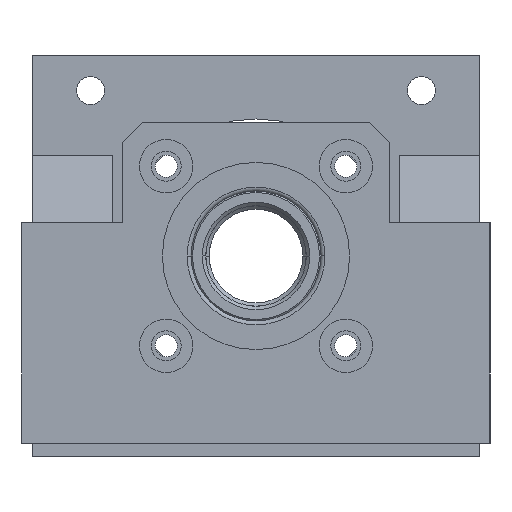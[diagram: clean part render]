
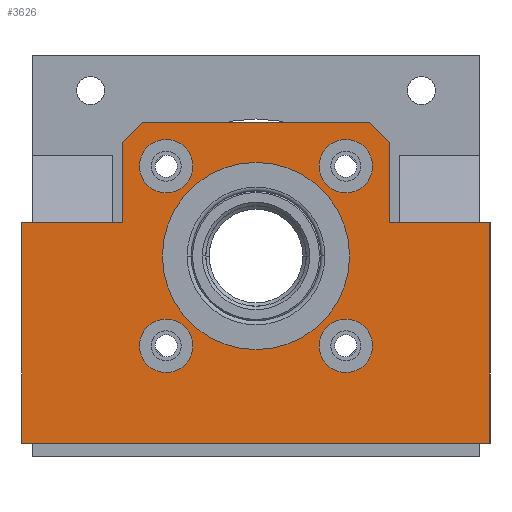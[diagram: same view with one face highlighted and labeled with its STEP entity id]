
A CAD part, left-side view. The second image highlights one B-rep face of the part: STEP entity #3626.
In plain terms, the highlighted planar face has unit normal (-1, 0, 0).
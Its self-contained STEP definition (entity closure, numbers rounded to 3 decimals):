
#1543=DIRECTION('',(0.,0.,-1.));
#1544=VECTOR('',#1543,12.);
#1545=CARTESIAN_POINT('',(0.,-20.,45.));
#1546=LINE('',#1545,#1544);
#1547=DIRECTION('',(0.,0.,-1.));
#1548=VECTOR('',#1547,33.);
#1549=CARTESIAN_POINT('',(0.,-35.,33.));
#1550=LINE('',#1549,#1548);
#1551=DIRECTION('',(0.,1.,0.));
#1552=VECTOR('',#1551,70.);
#1553=CARTESIAN_POINT('',(0.,-35.,0.));
#1554=LINE('',#1553,#1552);
#1555=DIRECTION('',(0.,-0.707,0.707));
#1556=VECTOR('',#1555,4.243);
#1557=CARTESIAN_POINT('',(0.,20.,45.));
#1558=LINE('',#1557,#1556);
#1559=DIRECTION('',(0.,-0.707,-0.707));
#1560=VECTOR('',#1559,4.243);
#1561=CARTESIAN_POINT('',(0.,-17.,48.));
#1562=LINE('',#1561,#1560);
#1563=CARTESIAN_POINT('',(0.,13.435,14.565));
#1564=DIRECTION('',(-1.,0.,0.));
#1565=DIRECTION('',(0.,-1.,0.));
#1566=AXIS2_PLACEMENT_3D('',#1563,#1564,#1565);
#1568=CARTESIAN_POINT('',(0.,13.435,14.565));
#1569=DIRECTION('',(-1.,0.,0.));
#1570=DIRECTION('',(0.,1.,0.));
#1571=AXIS2_PLACEMENT_3D('',#1568,#1569,#1570);
#1573=CARTESIAN_POINT('',(0.,-13.435,41.435));
#1574=DIRECTION('',(-1.,0.,0.));
#1575=DIRECTION('',(0.,-1.,0.));
#1576=AXIS2_PLACEMENT_3D('',#1573,#1574,#1575);
#1578=CARTESIAN_POINT('',(0.,-13.435,41.435));
#1579=DIRECTION('',(-1.,0.,0.));
#1580=DIRECTION('',(0.,1.,0.));
#1581=AXIS2_PLACEMENT_3D('',#1578,#1579,#1580);
#1583=CARTESIAN_POINT('',(0.,-13.435,14.565));
#1584=DIRECTION('',(-1.,0.,0.));
#1585=DIRECTION('',(0.,-1.,0.));
#1586=AXIS2_PLACEMENT_3D('',#1583,#1584,#1585);
#1588=CARTESIAN_POINT('',(0.,-13.435,14.565));
#1589=DIRECTION('',(-1.,0.,0.));
#1590=DIRECTION('',(0.,1.,0.));
#1591=AXIS2_PLACEMENT_3D('',#1588,#1589,#1590);
#1593=CARTESIAN_POINT('',(0.,0.,28.));
#1594=DIRECTION('',(-1.,0.,0.));
#1595=DIRECTION('',(0.,0.,1.));
#1596=AXIS2_PLACEMENT_3D('',#1593,#1594,#1595);
#1598=CARTESIAN_POINT('',(0.,13.435,41.435));
#1599=DIRECTION('',(-1.,0.,0.));
#1600=DIRECTION('',(0.,-1.,0.));
#1601=AXIS2_PLACEMENT_3D('',#1598,#1599,#1600);
#1603=CARTESIAN_POINT('',(0.,13.435,41.435));
#1604=DIRECTION('',(-1.,0.,0.));
#1605=DIRECTION('',(0.,1.,0.));
#1606=AXIS2_PLACEMENT_3D('',#1603,#1604,#1605);
#1624=DIRECTION('',(0.,1.,0.));
#1625=VECTOR('',#1624,15.);
#1626=CARTESIAN_POINT('',(0.,-35.,33.));
#1627=LINE('',#1626,#1625);
#1740=DIRECTION('',(0.,1.,0.));
#1741=VECTOR('',#1740,34.);
#1742=CARTESIAN_POINT('',(0.,-17.,48.));
#1743=LINE('',#1742,#1741);
#1756=DIRECTION('',(0.,0.,-1.));
#1757=VECTOR('',#1756,12.);
#1758=CARTESIAN_POINT('',(0.,20.,45.));
#1759=LINE('',#1758,#1757);
#1772=DIRECTION('',(0.,1.,0.));
#1773=VECTOR('',#1772,15.);
#1774=CARTESIAN_POINT('',(0.,20.,33.));
#1775=LINE('',#1774,#1773);
#1808=DIRECTION('',(0.,0.,-1.));
#1809=VECTOR('',#1808,33.);
#1810=CARTESIAN_POINT('',(0.,35.,33.));
#1811=LINE('',#1810,#1809);
#2041=CARTESIAN_POINT('',(0.,0.,28.));
#2042=DIRECTION('',(1.,0.,0.));
#2043=DIRECTION('',(0.,0.,1.));
#2044=AXIS2_PLACEMENT_3D('',#2041,#2042,#2043);
#2489=CARTESIAN_POINT('',(0.,35.,0.));
#2490=VERTEX_POINT('',#2489);
#2491=CARTESIAN_POINT('',(0.,-35.,0.));
#2492=VERTEX_POINT('',#2491);
#2643=CARTESIAN_POINT('',(0.,20.,33.));
#2644=VERTEX_POINT('',#2643);
#2645=CARTESIAN_POINT('',(0.,35.,33.));
#2646=VERTEX_POINT('',#2645);
#2719=CARTESIAN_POINT('',(0.,9.435,41.435));
#2720=VERTEX_POINT('',#2719);
#2721=CARTESIAN_POINT('',(0.,17.435,41.435));
#2722=VERTEX_POINT('',#2721);
#2723=CARTESIAN_POINT('',(0.,-20.,45.));
#2724=CARTESIAN_POINT('',(0.,-20.,33.));
#2725=VERTEX_POINT('',#2723);
#2726=VERTEX_POINT('',#2724);
#2727=CARTESIAN_POINT('',(0.,-35.,33.));
#2728=VERTEX_POINT('',#2727);
#2729=CARTESIAN_POINT('',(0.,20.,45.));
#2730=VERTEX_POINT('',#2729);
#2731=CARTESIAN_POINT('',(0.,17.,48.));
#2732=VERTEX_POINT('',#2731);
#2733=CARTESIAN_POINT('',(0.,-17.,48.));
#2734=VERTEX_POINT('',#2733);
#2735=CARTESIAN_POINT('',(0.,9.435,14.565));
#2736=CARTESIAN_POINT('',(0.,17.435,14.565));
#2737=VERTEX_POINT('',#2735);
#2738=VERTEX_POINT('',#2736);
#2739=CARTESIAN_POINT('',(0.,-17.435,41.435));
#2740=CARTESIAN_POINT('',(0.,-9.435,41.435));
#2741=VERTEX_POINT('',#2739);
#2742=VERTEX_POINT('',#2740);
#2743=CARTESIAN_POINT('',(0.,-17.435,14.565));
#2744=CARTESIAN_POINT('',(0.,-9.435,14.565));
#2745=VERTEX_POINT('',#2743);
#2746=VERTEX_POINT('',#2744);
#2747=CARTESIAN_POINT('',(0.,0.,42.));
#2748=CARTESIAN_POINT('',(0.,0.,14.));
#2749=VERTEX_POINT('',#2747);
#2750=VERTEX_POINT('',#2748);
#3571=CARTESIAN_POINT('',(0.,-35.,33.));
#3572=DIRECTION('',(-1.,0.,0.));
#3573=DIRECTION('',(0.,-1.,0.));
#3574=AXIS2_PLACEMENT_3D('',#3571,#3572,#3573);
#3575=PLANE('',#3574);
#3577=ORIENTED_EDGE('',*,*,#3576,.T.);
#3579=ORIENTED_EDGE('',*,*,#3578,.F.);
#3580=ORIENTED_EDGE('',*,*,#3563,.T.);
#3581=ORIENTED_EDGE('',*,*,#2962,.T.);
#3583=ORIENTED_EDGE('',*,*,#3582,.F.);
#3585=ORIENTED_EDGE('',*,*,#3584,.F.);
#3587=ORIENTED_EDGE('',*,*,#3586,.F.);
#3589=ORIENTED_EDGE('',*,*,#3588,.T.);
#3591=ORIENTED_EDGE('',*,*,#3590,.F.);
#3593=ORIENTED_EDGE('',*,*,#3592,.T.);
#3594=EDGE_LOOP('',(#3577,#3579,#3580,#3581,#3583,#3585,#3587,#3589,#3591,
#3593));
#3595=FACE_OUTER_BOUND('',#3594,.F.);
#3597=ORIENTED_EDGE('',*,*,#3596,.T.);
#3599=ORIENTED_EDGE('',*,*,#3598,.T.);
#3600=EDGE_LOOP('',(#3597,#3599));
#3601=FACE_BOUND('',#3600,.F.);
#3603=ORIENTED_EDGE('',*,*,#3602,.T.);
#3605=ORIENTED_EDGE('',*,*,#3604,.T.);
#3606=EDGE_LOOP('',(#3603,#3605));
#3607=FACE_BOUND('',#3606,.F.);
#3609=ORIENTED_EDGE('',*,*,#3608,.T.);
#3611=ORIENTED_EDGE('',*,*,#3610,.T.);
#3612=EDGE_LOOP('',(#3609,#3611));
#3613=FACE_BOUND('',#3612,.F.);
#3615=ORIENTED_EDGE('',*,*,#3614,.F.);
#3617=ORIENTED_EDGE('',*,*,#3616,.T.);
#3618=EDGE_LOOP('',(#3615,#3617));
#3619=FACE_BOUND('',#3618,.F.);
#3621=ORIENTED_EDGE('',*,*,#3620,.T.);
#3623=ORIENTED_EDGE('',*,*,#3622,.T.);
#3624=EDGE_LOOP('',(#3621,#3623));
#3625=FACE_BOUND('',#3624,.F.);
#1567=CIRCLE('',#1566,4.);
#1572=CIRCLE('',#1571,4.);
#1577=CIRCLE('',#1576,4.);
#1582=CIRCLE('',#1581,4.);
#1587=CIRCLE('',#1586,4.);
#1592=CIRCLE('',#1591,4.);
#1597=CIRCLE('',#1596,14.);
#1602=CIRCLE('',#1601,4.);
#1607=CIRCLE('',#1606,4.);
#2045=CIRCLE('',#2044,14.);
#2962=EDGE_CURVE('',#2492,#2490,#1554,.T.);
#3563=EDGE_CURVE('',#2728,#2492,#1550,.T.);
#3576=EDGE_CURVE('',#2725,#2726,#1546,.T.);
#3578=EDGE_CURVE('',#2728,#2726,#1627,.T.);
#3582=EDGE_CURVE('',#2646,#2490,#1811,.T.);
#3584=EDGE_CURVE('',#2644,#2646,#1775,.T.);
#3586=EDGE_CURVE('',#2730,#2644,#1759,.T.);
#3588=EDGE_CURVE('',#2730,#2732,#1558,.T.);
#3590=EDGE_CURVE('',#2734,#2732,#1743,.T.);
#3592=EDGE_CURVE('',#2734,#2725,#1562,.T.);
#3596=EDGE_CURVE('',#2737,#2738,#1567,.T.);
#3598=EDGE_CURVE('',#2738,#2737,#1572,.T.);
#3602=EDGE_CURVE('',#2741,#2742,#1577,.T.);
#3604=EDGE_CURVE('',#2742,#2741,#1582,.T.);
#3608=EDGE_CURVE('',#2745,#2746,#1587,.T.);
#3610=EDGE_CURVE('',#2746,#2745,#1592,.T.);
#3614=EDGE_CURVE('',#2749,#2750,#2045,.T.);
#3616=EDGE_CURVE('',#2749,#2750,#1597,.T.);
#3620=EDGE_CURVE('',#2720,#2722,#1602,.T.);
#3622=EDGE_CURVE('',#2722,#2720,#1607,.T.);
#3626=ADVANCED_FACE('',(#3595,#3601,#3607,#3613,#3619,#3625),#3575,.T.);
